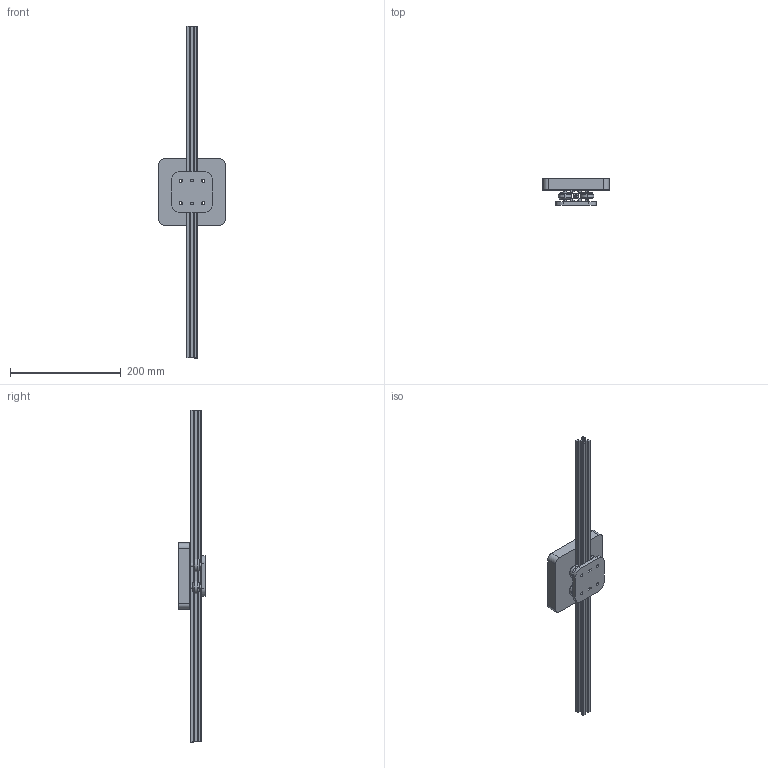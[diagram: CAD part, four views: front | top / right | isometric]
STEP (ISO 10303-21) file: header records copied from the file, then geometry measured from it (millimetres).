
FILE_DESCRIPTION (( 'STEP AP214' ), '1' );
FILE_NAME ('PlantCarriageAssembly.STEP', '2026-08-22T12:12:50', ( '' ), ( '' ), 'SwSTEP 2.0', 'SolidWorks 2026', '' );
FILE_SCHEMA (( 'AUTOMOTIVE_DESIGN' ));
Length unit declared in the file: millimetre
Products named in the file (6): VWheelSpacer; PlantCarriageTop; PlantCarriageAssembly; VWheel; PlantCarriageBase; 600mmAlExt
Assembly tree (15 placements, depth 2):
  PlantCarriageAssembly
    PlantCarriageBase
    PlantCarriageTop
    VWheelSpacer  x8
    VWheel  x4
    600mmAlExt
Bounding box: 120 x 47.35 x 600 mm (x, y, z)
Volume: 310872.7 mm3; surface area: 163845.7 mm2
Topology: 19 solids, 19 shells, 341 faces, 766 edges, 484 vertices
Faces by surface type: cylinder 138, plane 123, cone 80
Entity records: 5328 total; most frequent: DIRECTION 932, CARTESIAN_POINT 875, ORIENTED_EDGE 836, EDGE_CURVE 418, AXIS2_PLACEMENT_3D 329, VECTOR 274, LINE 274, VERTEX_POINT 272
